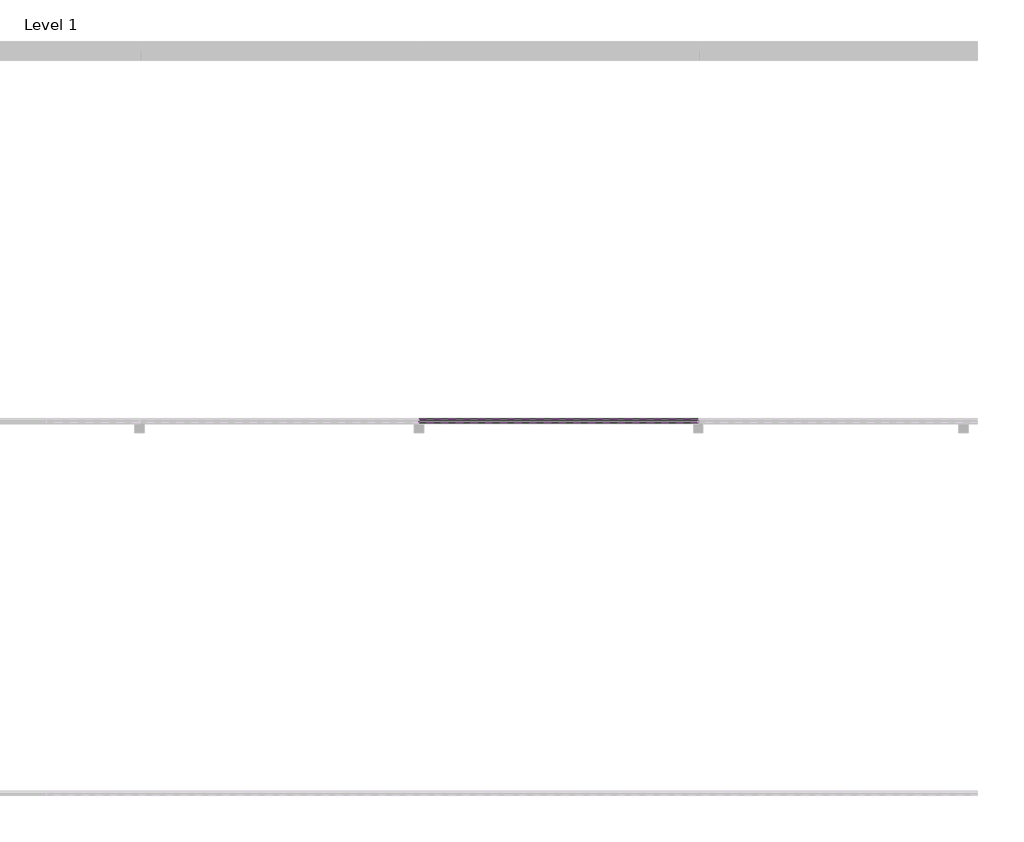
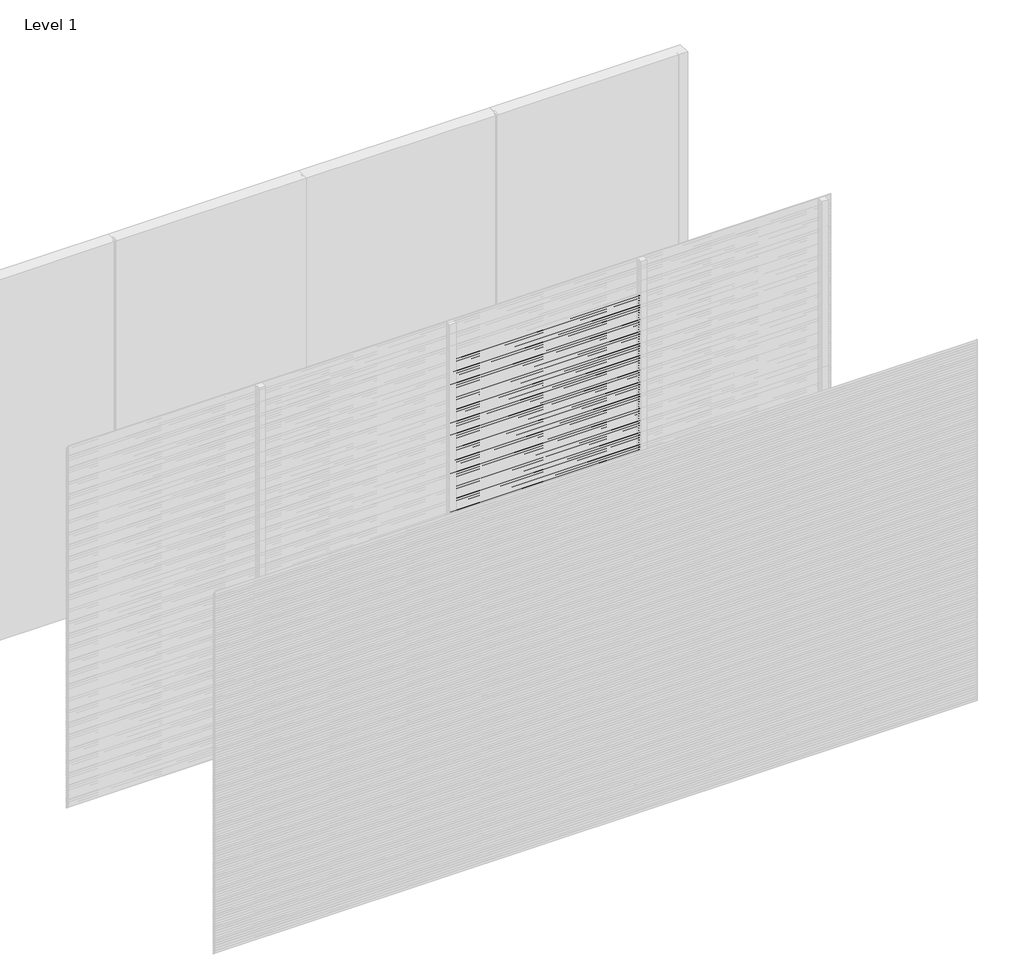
# One storey, part 14 of 31: 98 proxies.
"""IFC4 building model written with IfcOpenShell, lengths in millimetres."""

from ifc_helpers import new_model, si_unit, frame, origin, place, context, project, spatial, polyline, outline, extrude, element, save

model = new_model("IFC4")

# Units and contexts
model_context = context("Model", 3, world=origin())
ifc_project = project(units=[si_unit("LENGTHUNIT", "METRE", prefix="MILLI")], contexts=[model_context])

# Site, building, storey
site = spatial("IfcSite", under=ifc_project)
building = spatial("IfcBuilding", under=site)
storey = spatial("IfcBuildingStorey", under=building, Name="Level 1", Elevation=0.0)

# Proxies
placement = place(None, origin())
element("IfcBuildingElementProxy", 1, Name="Wall Sweeps", at=placement, inside=storey, context=model_context, shape_type="SweptSolid", body=[
    extrude(outline(polyline([(-11995.0, 2700.0), (-11995.0, 2688.942893), (-11976.0, 2673.0), (-11976.0, 2660.0), (-11997.0, 2677.6210923), (-11997.0, 2700.0), (-11995.0, 2700.0)])), frame((3000.0, 0.0, 0.0), z_axis=(1.0, 0.0, 0.0), x_axis=(0.0, 1.0, 0.0)), (0.0, 0.0, 1.0), 1500.0),
])
element("IfcBuildingElementProxy", 2, Name="Wall Sweeps", at=placement, inside=storey, context=model_context, shape_type="SweptSolid", body=[
    extrude(outline(polyline([(-11995.0, 2680.0), (-11995.0, 2668.942893), (-11976.0, 2653.0), (-11976.0, 2640.0), (-11997.0, 2657.6210923), (-11997.0, 2680.0), (-11995.0, 2680.0)])), frame((3000.0, 0.0, 0.0), z_axis=(1.0, 0.0, 0.0), x_axis=(0.0, 1.0, 0.0)), (0.0, 0.0, 1.0), 1500.0),
])
element("IfcBuildingElementProxy", 3, Name="Wall Sweeps", at=placement, inside=storey, context=model_context, shape_type="SweptSolid", body=[
    extrude(outline(polyline([(-11995.0, 2660.0), (-11995.0, 2648.942893), (-11976.0, 2633.0), (-11976.0, 2620.0), (-11997.0, 2637.6210923), (-11997.0, 2660.0), (-11995.0, 2660.0)])), frame((3000.0, 0.0, 0.0), z_axis=(1.0, 0.0, 0.0), x_axis=(0.0, 1.0, 0.0)), (0.0, 0.0, 1.0), 1500.0),
])
element("IfcBuildingElementProxy", 4, Name="Wall Sweeps", at=placement, inside=storey, context=model_context, shape_type="SweptSolid", body=[
    extrude(outline(polyline([(-11995.0, 2640.0), (-11995.0, 2628.942893), (-11976.0, 2613.0), (-11976.0, 2600.0), (-11997.0, 2617.6210923), (-11997.0, 2640.0), (-11995.0, 2640.0)])), frame((3000.0, 0.0, 0.0), z_axis=(1.0, 0.0, 0.0), x_axis=(0.0, 1.0, 0.0)), (0.0, 0.0, 1.0), 1500.0),
])
element("IfcBuildingElementProxy", 5, Name="Wall Sweeps", at=placement, inside=storey, context=model_context, shape_type="SweptSolid", body=[
    extrude(outline(polyline([(-11995.0, 2620.0), (-11995.0, 2608.942893), (-11976.0, 2593.0), (-11976.0, 2580.0), (-11997.0, 2597.6210923), (-11997.0, 2620.0), (-11995.0, 2620.0)])), frame((3000.0, 0.0, 0.0), z_axis=(1.0, 0.0, 0.0), x_axis=(0.0, 1.0, 0.0)), (0.0, 0.0, 1.0), 1500.0),
])
element("IfcBuildingElementProxy", 6, Name="Wall Sweeps", at=placement, inside=storey, context=model_context, shape_type="SweptSolid", body=[
    extrude(outline(polyline([(-11995.0, 2600.0), (-11995.0, 2588.942893), (-11976.0, 2573.0), (-11976.0, 2560.0), (-11997.0, 2577.6210923), (-11997.0, 2600.0), (-11995.0, 2600.0)])), frame((3000.0, 0.0, 0.0), z_axis=(1.0, 0.0, 0.0), x_axis=(0.0, 1.0, 0.0)), (0.0, 0.0, 1.0), 1500.0),
])
element("IfcBuildingElementProxy", 7, Name="Wall Sweeps", at=placement, inside=storey, context=model_context, shape_type="SweptSolid", body=[
    extrude(outline(polyline([(-11995.0, 2580.0), (-11995.0, 2568.942893), (-11976.0, 2553.0), (-11976.0, 2540.0), (-11997.0, 2557.6210923), (-11997.0, 2580.0), (-11995.0, 2580.0)])), frame((3000.0, 0.0, 0.0), z_axis=(1.0, 0.0, 0.0), x_axis=(0.0, 1.0, 0.0)), (0.0, 0.0, 1.0), 1500.0),
])
element("IfcBuildingElementProxy", 8, Name="Wall Sweeps", at=placement, inside=storey, context=model_context, shape_type="SweptSolid", body=[
    extrude(outline(polyline([(-11995.0, 2560.0), (-11995.0, 2548.942893), (-11976.0, 2533.0), (-11976.0, 2520.0), (-11997.0, 2537.6210923), (-11997.0, 2560.0), (-11995.0, 2560.0)])), frame((3000.0, 0.0, 0.0), z_axis=(1.0, 0.0, 0.0), x_axis=(0.0, 1.0, 0.0)), (0.0, 0.0, 1.0), 1500.0),
])
element("IfcBuildingElementProxy", 9, Name="Wall Sweeps", at=placement, inside=storey, context=model_context, shape_type="SweptSolid", body=[
    extrude(outline(polyline([(-11995.0, 2540.0), (-11995.0, 2528.942893), (-11976.0, 2513.0), (-11976.0, 2500.0), (-11997.0, 2517.6210923), (-11997.0, 2540.0), (-11995.0, 2540.0)])), frame((3000.0, 0.0, 0.0), z_axis=(1.0, 0.0, 0.0), x_axis=(0.0, 1.0, 0.0)), (0.0, 0.0, 1.0), 1500.0),
])
element("IfcBuildingElementProxy", 10, Name="Wall Sweeps", at=placement, inside=storey, context=model_context, shape_type="SweptSolid", body=[
    extrude(outline(polyline([(-11995.0, 2520.0), (-11995.0, 2508.942893), (-11976.0, 2493.0), (-11976.0, 2480.0), (-11997.0, 2497.6210923), (-11997.0, 2520.0), (-11995.0, 2520.0)])), frame((3000.0, 0.0, 0.0), z_axis=(1.0, 0.0, 0.0), x_axis=(0.0, 1.0, 0.0)), (0.0, 0.0, 1.0), 1500.0),
])
element("IfcBuildingElementProxy", 11, Name="Wall Sweeps", at=placement, inside=storey, context=model_context, shape_type="SweptSolid", body=[
    extrude(outline(polyline([(-11995.0, 2500.0), (-11995.0, 2488.942893), (-11976.0, 2473.0), (-11976.0, 2460.0), (-11997.0, 2477.6210923), (-11997.0, 2500.0), (-11995.0, 2500.0)])), frame((3000.0, 0.0, 0.0), z_axis=(1.0, 0.0, 0.0), x_axis=(0.0, 1.0, 0.0)), (0.0, 0.0, 1.0), 1500.0),
])
element("IfcBuildingElementProxy", 12, Name="Wall Sweeps", at=placement, inside=storey, context=model_context, shape_type="SweptSolid", body=[
    extrude(outline(polyline([(-11995.0, 2480.0), (-11995.0, 2468.942893), (-11976.0, 2453.0), (-11976.0, 2440.0), (-11997.0, 2457.6210923), (-11997.0, 2480.0), (-11995.0, 2480.0)])), frame((3000.0, 0.0, 0.0), z_axis=(1.0, 0.0, 0.0), x_axis=(0.0, 1.0, 0.0)), (0.0, 0.0, 1.0), 1500.0),
])
element("IfcBuildingElementProxy", 13, Name="Wall Sweeps", at=placement, inside=storey, context=model_context, shape_type="SweptSolid", body=[
    extrude(outline(polyline([(-11995.0, 2460.0), (-11995.0, 2448.942893), (-11976.0, 2433.0), (-11976.0, 2420.0), (-11997.0, 2437.6210923), (-11997.0, 2460.0), (-11995.0, 2460.0)])), frame((3000.0, 0.0, 0.0), z_axis=(1.0, 0.0, 0.0), x_axis=(0.0, 1.0, 0.0)), (0.0, 0.0, 1.0), 1500.0),
])
element("IfcBuildingElementProxy", 14, Name="Wall Sweeps", at=placement, inside=storey, context=model_context, shape_type="SweptSolid", body=[
    extrude(outline(polyline([(-11995.0, 2440.0), (-11995.0, 2428.942893), (-11976.0, 2413.0), (-11976.0, 2400.0), (-11997.0, 2417.6210923), (-11997.0, 2440.0), (-11995.0, 2440.0)])), frame((3000.0, 0.0, 0.0), z_axis=(1.0, 0.0, 0.0), x_axis=(0.0, 1.0, 0.0)), (0.0, 0.0, 1.0), 1500.0),
])
element("IfcBuildingElementProxy", 15, Name="Wall Sweeps", at=placement, inside=storey, context=model_context, shape_type="SweptSolid", body=[
    extrude(outline(polyline([(-11995.0, 2420.0), (-11995.0, 2408.942893), (-11976.0, 2393.0), (-11976.0, 2380.0), (-11997.0, 2397.6210923), (-11997.0, 2420.0), (-11995.0, 2420.0)])), frame((3000.0, 0.0, 0.0), z_axis=(1.0, 0.0, 0.0), x_axis=(0.0, 1.0, 0.0)), (0.0, 0.0, 1.0), 1500.0),
])
element("IfcBuildingElementProxy", 16, Name="Wall Sweeps", at=placement, inside=storey, context=model_context, shape_type="SweptSolid", body=[
    extrude(outline(polyline([(-11995.0, 2400.0), (-11995.0, 2388.942893), (-11976.0, 2373.0), (-11976.0, 2360.0), (-11997.0, 2377.6210923), (-11997.0, 2400.0), (-11995.0, 2400.0)])), frame((3000.0, 0.0, 0.0), z_axis=(1.0, 0.0, 0.0), x_axis=(0.0, 1.0, 0.0)), (0.0, 0.0, 1.0), 1500.0),
])
element("IfcBuildingElementProxy", 17, Name="Wall Sweeps", at=placement, inside=storey, context=model_context, shape_type="SweptSolid", body=[
    extrude(outline(polyline([(-11995.0, 2380.0), (-11995.0, 2368.942893), (-11976.0, 2353.0), (-11976.0, 2340.0), (-11997.0, 2357.6210923), (-11997.0, 2380.0), (-11995.0, 2380.0)])), frame((3000.0, 0.0, 0.0), z_axis=(1.0, 0.0, 0.0), x_axis=(0.0, 1.0, 0.0)), (0.0, 0.0, 1.0), 1500.0),
])
element("IfcBuildingElementProxy", 18, Name="Wall Sweeps", at=placement, inside=storey, context=model_context, shape_type="SweptSolid", body=[
    extrude(outline(polyline([(-11995.0, 2360.0), (-11995.0, 2348.942893), (-11976.0, 2333.0), (-11976.0, 2320.0), (-11997.0, 2337.6210923), (-11997.0, 2360.0), (-11995.0, 2360.0)])), frame((3000.0, 0.0, 0.0), z_axis=(1.0, 0.0, 0.0), x_axis=(0.0, 1.0, 0.0)), (0.0, 0.0, 1.0), 1500.0),
])
element("IfcBuildingElementProxy", 19, Name="Wall Sweeps", at=placement, inside=storey, context=model_context, shape_type="SweptSolid", body=[
    extrude(outline(polyline([(-11995.0, 2340.0), (-11995.0, 2328.942893), (-11976.0, 2313.0), (-11976.0, 2300.0), (-11997.0, 2317.6210923), (-11997.0, 2340.0), (-11995.0, 2340.0)])), frame((3000.0, 0.0, 0.0), z_axis=(1.0, 0.0, 0.0), x_axis=(0.0, 1.0, 0.0)), (0.0, 0.0, 1.0), 1500.0),
])
element("IfcBuildingElementProxy", 20, Name="Wall Sweeps", at=placement, inside=storey, context=model_context, shape_type="SweptSolid", body=[
    extrude(outline(polyline([(-11995.0, 2320.0), (-11995.0, 2308.942893), (-11976.0, 2293.0), (-11976.0, 2280.0), (-11997.0, 2297.6210923), (-11997.0, 2320.0), (-11995.0, 2320.0)])), frame((3000.0, 0.0, 0.0), z_axis=(1.0, 0.0, 0.0), x_axis=(0.0, 1.0, 0.0)), (0.0, 0.0, 1.0), 1500.0),
])
element("IfcBuildingElementProxy", 21, Name="Wall Sweeps", at=placement, inside=storey, context=model_context, shape_type="SweptSolid", body=[
    extrude(outline(polyline([(-11995.0, 2300.0), (-11995.0, 2288.942893), (-11976.0, 2273.0), (-11976.0, 2260.0), (-11997.0, 2277.6210923), (-11997.0, 2300.0), (-11995.0, 2300.0)])), frame((3000.0, 0.0, 0.0), z_axis=(1.0, 0.0, 0.0), x_axis=(0.0, 1.0, 0.0)), (0.0, 0.0, 1.0), 1500.0),
])
element("IfcBuildingElementProxy", 22, Name="Wall Sweeps", at=placement, inside=storey, context=model_context, shape_type="SweptSolid", body=[
    extrude(outline(polyline([(-11995.0, 2280.0), (-11995.0, 2268.942893), (-11976.0, 2253.0), (-11976.0, 2240.0), (-11997.0, 2257.6210923), (-11997.0, 2280.0), (-11995.0, 2280.0)])), frame((3000.0, 0.0, 0.0), z_axis=(1.0, 0.0, 0.0), x_axis=(0.0, 1.0, 0.0)), (0.0, 0.0, 1.0), 1500.0),
])
element("IfcBuildingElementProxy", 23, Name="Wall Sweeps", at=placement, inside=storey, context=model_context, shape_type="SweptSolid", body=[
    extrude(outline(polyline([(-11995.0, 2260.0), (-11995.0, 2248.942893), (-11976.0, 2233.0), (-11976.0, 2220.0), (-11997.0, 2237.6210923), (-11997.0, 2260.0), (-11995.0, 2260.0)])), frame((3000.0, 0.0, 0.0), z_axis=(1.0, 0.0, 0.0), x_axis=(0.0, 1.0, 0.0)), (0.0, 0.0, 1.0), 1500.0),
])
element("IfcBuildingElementProxy", 24, Name="Wall Sweeps", at=placement, inside=storey, context=model_context, shape_type="SweptSolid", body=[
    extrude(outline(polyline([(-11995.0, 2240.0), (-11995.0, 2228.942893), (-11976.0, 2213.0), (-11976.0, 2200.0), (-11997.0, 2217.6210923), (-11997.0, 2240.0), (-11995.0, 2240.0)])), frame((3000.0, 0.0, 0.0), z_axis=(1.0, 0.0, 0.0), x_axis=(0.0, 1.0, 0.0)), (0.0, 0.0, 1.0), 1500.0),
])
element("IfcBuildingElementProxy", 25, Name="Wall Sweeps", at=placement, inside=storey, context=model_context, shape_type="SweptSolid", body=[
    extrude(outline(polyline([(-11995.0, 2220.0), (-11995.0, 2208.942893), (-11976.0, 2193.0), (-11976.0, 2180.0), (-11997.0, 2197.6210923), (-11997.0, 2220.0), (-11995.0, 2220.0)])), frame((3000.0, 0.0, 0.0), z_axis=(1.0, 0.0, 0.0), x_axis=(0.0, 1.0, 0.0)), (0.0, 0.0, 1.0), 1500.0),
])
element("IfcBuildingElementProxy", 26, Name="Wall Sweeps", at=placement, inside=storey, context=model_context, shape_type="SweptSolid", body=[
    extrude(outline(polyline([(-11995.0, 2200.0), (-11995.0, 2188.942893), (-11976.0, 2173.0), (-11976.0, 2160.0), (-11997.0, 2177.6210923), (-11997.0, 2200.0), (-11995.0, 2200.0)])), frame((3000.0, 0.0, 0.0), z_axis=(1.0, 0.0, 0.0), x_axis=(0.0, 1.0, 0.0)), (0.0, 0.0, 1.0), 1500.0),
])
element("IfcBuildingElementProxy", 27, Name="Wall Sweeps", at=placement, inside=storey, context=model_context, shape_type="SweptSolid", body=[
    extrude(outline(polyline([(-11995.0, 2180.0), (-11995.0, 2168.942893), (-11976.0, 2153.0), (-11976.0, 2140.0), (-11997.0, 2157.6210923), (-11997.0, 2180.0), (-11995.0, 2180.0)])), frame((3000.0, 0.0, 0.0), z_axis=(1.0, 0.0, 0.0), x_axis=(0.0, 1.0, 0.0)), (0.0, 0.0, 1.0), 1500.0),
])
element("IfcBuildingElementProxy", 28, Name="Wall Sweeps", at=placement, inside=storey, context=model_context, shape_type="SweptSolid", body=[
    extrude(outline(polyline([(-11995.0, 2160.0), (-11995.0, 2148.942893), (-11976.0, 2133.0), (-11976.0, 2120.0), (-11997.0, 2137.6210923), (-11997.0, 2160.0), (-11995.0, 2160.0)])), frame((3000.0, 0.0, 0.0), z_axis=(1.0, 0.0, 0.0), x_axis=(0.0, 1.0, 0.0)), (0.0, 0.0, 1.0), 1500.0),
])
element("IfcBuildingElementProxy", 29, Name="Wall Sweeps", at=placement, inside=storey, context=model_context, shape_type="SweptSolid", body=[
    extrude(outline(polyline([(-11995.0, 2140.0), (-11995.0, 2128.942893), (-11976.0, 2113.0), (-11976.0, 2100.0), (-11997.0, 2117.6210923), (-11997.0, 2140.0), (-11995.0, 2140.0)])), frame((3000.0, 0.0, 0.0), z_axis=(1.0, 0.0, 0.0), x_axis=(0.0, 1.0, 0.0)), (0.0, 0.0, 1.0), 1500.0),
])
element("IfcBuildingElementProxy", 30, Name="Wall Sweeps", at=placement, inside=storey, context=model_context, shape_type="SweptSolid", body=[
    extrude(outline(polyline([(-11995.0, 2120.0), (-11995.0, 2108.942893), (-11976.0, 2093.0), (-11976.0, 2080.0), (-11997.0, 2097.6210923), (-11997.0, 2120.0), (-11995.0, 2120.0)])), frame((3000.0, 0.0, 0.0), z_axis=(1.0, 0.0, 0.0), x_axis=(0.0, 1.0, 0.0)), (0.0, 0.0, 1.0), 1500.0),
])
element("IfcBuildingElementProxy", 31, Name="Wall Sweeps", at=placement, inside=storey, context=model_context, shape_type="SweptSolid", body=[
    extrude(outline(polyline([(-11995.0, 2100.0), (-11995.0, 2088.942893), (-11976.0, 2073.0), (-11976.0, 2060.0), (-11997.0, 2077.6210923), (-11997.0, 2100.0), (-11995.0, 2100.0)])), frame((3000.0, 0.0, 0.0), z_axis=(1.0, 0.0, 0.0), x_axis=(0.0, 1.0, 0.0)), (0.0, 0.0, 1.0), 1500.0),
])
element("IfcBuildingElementProxy", 32, Name="Wall Sweeps", at=placement, inside=storey, context=model_context, shape_type="SweptSolid", body=[
    extrude(outline(polyline([(-11995.0, 2080.0), (-11995.0, 2068.942893), (-11976.0, 2053.0), (-11976.0, 2040.0), (-11997.0, 2057.6210923), (-11997.0, 2080.0), (-11995.0, 2080.0)])), frame((3000.0, 0.0, 0.0), z_axis=(1.0, 0.0, 0.0), x_axis=(0.0, 1.0, 0.0)), (0.0, 0.0, 1.0), 1500.0),
])
element("IfcBuildingElementProxy", 33, Name="Wall Sweeps", at=placement, inside=storey, context=model_context, shape_type="SweptSolid", body=[
    extrude(outline(polyline([(-11995.0, 2060.0), (-11995.0, 2048.942893), (-11976.0, 2033.0), (-11976.0, 2020.0), (-11997.0, 2037.6210923), (-11997.0, 2060.0), (-11995.0, 2060.0)])), frame((3000.0, 0.0, 0.0), z_axis=(1.0, 0.0, 0.0), x_axis=(0.0, 1.0, 0.0)), (0.0, 0.0, 1.0), 1500.0),
])
element("IfcBuildingElementProxy", 34, Name="Wall Sweeps", at=placement, inside=storey, context=model_context, shape_type="SweptSolid", body=[
    extrude(outline(polyline([(-11995.0, 2040.0), (-11995.0, 2028.942893), (-11976.0, 2013.0), (-11976.0, 2000.0), (-11997.0, 2017.6210923), (-11997.0, 2040.0), (-11995.0, 2040.0)])), frame((3000.0, 0.0, 0.0), z_axis=(1.0, 0.0, 0.0), x_axis=(0.0, 1.0, 0.0)), (0.0, 0.0, 1.0), 1500.0),
])
element("IfcBuildingElementProxy", 35, Name="Wall Sweeps", at=placement, inside=storey, context=model_context, shape_type="SweptSolid", body=[
    extrude(outline(polyline([(-11995.0, 2020.0), (-11995.0, 2008.942893), (-11976.0, 1993.0), (-11976.0, 1980.0), (-11997.0, 1997.6210923), (-11997.0, 2020.0), (-11995.0, 2020.0)])), frame((3000.0, 0.0, 0.0), z_axis=(1.0, 0.0, 0.0), x_axis=(0.0, 1.0, 0.0)), (0.0, 0.0, 1.0), 1500.0),
])
element("IfcBuildingElementProxy", 36, Name="Wall Sweeps", at=placement, inside=storey, context=model_context, shape_type="SweptSolid", body=[
    extrude(outline(polyline([(-11995.0, 2000.0), (-11995.0, 1988.942893), (-11976.0, 1973.0), (-11976.0, 1960.0), (-11997.0, 1977.6210923), (-11997.0, 2000.0), (-11995.0, 2000.0)])), frame((3000.0, 0.0, 0.0), z_axis=(1.0, 0.0, 0.0), x_axis=(0.0, 1.0, 0.0)), (0.0, 0.0, 1.0), 1500.0),
])
element("IfcBuildingElementProxy", 37, Name="Wall Sweeps", at=placement, inside=storey, context=model_context, shape_type="SweptSolid", body=[
    extrude(outline(polyline([(-11995.0, 1980.0), (-11995.0, 1968.942893), (-11976.0, 1953.0), (-11976.0, 1940.0), (-11997.0, 1957.6210923), (-11997.0, 1980.0), (-11995.0, 1980.0)])), frame((3000.0, 0.0, 0.0), z_axis=(1.0, 0.0, 0.0), x_axis=(0.0, 1.0, 0.0)), (0.0, 0.0, 1.0), 1500.0),
])
element("IfcBuildingElementProxy", 38, Name="Wall Sweeps", at=placement, inside=storey, context=model_context, shape_type="SweptSolid", body=[
    extrude(outline(polyline([(-11995.0, 1960.0), (-11995.0, 1948.942893), (-11976.0, 1933.0), (-11976.0, 1920.0), (-11997.0, 1937.6210923), (-11997.0, 1960.0), (-11995.0, 1960.0)])), frame((3000.0, 0.0, 0.0), z_axis=(1.0, 0.0, 0.0), x_axis=(0.0, 1.0, 0.0)), (0.0, 0.0, 1.0), 1500.0),
])
element("IfcBuildingElementProxy", 39, Name="Wall Sweeps", at=placement, inside=storey, context=model_context, shape_type="SweptSolid", body=[
    extrude(outline(polyline([(-11995.0, 1940.0), (-11995.0, 1928.942893), (-11976.0, 1913.0), (-11976.0, 1900.0), (-11997.0, 1917.6210923), (-11997.0, 1940.0), (-11995.0, 1940.0)])), frame((3000.0, 0.0, 0.0), z_axis=(1.0, 0.0, 0.0), x_axis=(0.0, 1.0, 0.0)), (0.0, 0.0, 1.0), 1500.0),
])
element("IfcBuildingElementProxy", 40, Name="Wall Sweeps", at=placement, inside=storey, context=model_context, shape_type="SweptSolid", body=[
    extrude(outline(polyline([(-11995.0, 1920.0), (-11995.0, 1908.942893), (-11976.0, 1893.0), (-11976.0, 1880.0), (-11997.0, 1897.6210923), (-11997.0, 1920.0), (-11995.0, 1920.0)])), frame((3000.0, 0.0, 0.0), z_axis=(1.0, 0.0, 0.0), x_axis=(0.0, 1.0, 0.0)), (0.0, 0.0, 1.0), 1500.0),
])
element("IfcBuildingElementProxy", 41, Name="Wall Sweeps", at=placement, inside=storey, context=model_context, shape_type="SweptSolid", body=[
    extrude(outline(polyline([(-11995.0, 1900.0), (-11995.0, 1888.942893), (-11976.0, 1873.0), (-11976.0, 1860.0), (-11997.0, 1877.6210923), (-11997.0, 1900.0), (-11995.0, 1900.0)])), frame((3000.0, 0.0, 0.0), z_axis=(1.0, 0.0, 0.0), x_axis=(0.0, 1.0, 0.0)), (0.0, 0.0, 1.0), 1500.0),
])
element("IfcBuildingElementProxy", 42, Name="Wall Sweeps", at=placement, inside=storey, context=model_context, shape_type="SweptSolid", body=[
    extrude(outline(polyline([(-11995.0, 1880.0), (-11995.0, 1868.942893), (-11976.0, 1853.0), (-11976.0, 1840.0), (-11997.0, 1857.6210923), (-11997.0, 1880.0), (-11995.0, 1880.0)])), frame((3000.0, 0.0, 0.0), z_axis=(1.0, 0.0, 0.0), x_axis=(0.0, 1.0, 0.0)), (0.0, 0.0, 1.0), 1500.0),
])
element("IfcBuildingElementProxy", 43, Name="Wall Sweeps", at=placement, inside=storey, context=model_context, shape_type="SweptSolid", body=[
    extrude(outline(polyline([(-11995.0, 1860.0), (-11995.0, 1848.942893), (-11976.0, 1833.0), (-11976.0, 1820.0), (-11997.0, 1837.6210923), (-11997.0, 1860.0), (-11995.0, 1860.0)])), frame((3000.0, 0.0, 0.0), z_axis=(1.0, 0.0, 0.0), x_axis=(0.0, 1.0, 0.0)), (0.0, 0.0, 1.0), 1500.0),
])
element("IfcBuildingElementProxy", 44, Name="Wall Sweeps", at=placement, inside=storey, context=model_context, shape_type="SweptSolid", body=[
    extrude(outline(polyline([(-11995.0, 1840.0), (-11995.0, 1828.942893), (-11976.0, 1813.0), (-11976.0, 1800.0), (-11997.0, 1817.6210923), (-11997.0, 1840.0), (-11995.0, 1840.0)])), frame((3000.0, 0.0, 0.0), z_axis=(1.0, 0.0, 0.0), x_axis=(0.0, 1.0, 0.0)), (0.0, 0.0, 1.0), 1500.0),
])
element("IfcBuildingElementProxy", 45, Name="Wall Sweeps", at=placement, inside=storey, context=model_context, shape_type="SweptSolid", body=[
    extrude(outline(polyline([(-11995.0, 1820.0), (-11995.0, 1808.942893), (-11976.0, 1793.0), (-11976.0, 1780.0), (-11997.0, 1797.6210923), (-11997.0, 1820.0), (-11995.0, 1820.0)])), frame((3000.0, 0.0, 0.0), z_axis=(1.0, 0.0, 0.0), x_axis=(0.0, 1.0, 0.0)), (0.0, 0.0, 1.0), 1500.0),
])
element("IfcBuildingElementProxy", 46, Name="Wall Sweeps", at=placement, inside=storey, context=model_context, shape_type="SweptSolid", body=[
    extrude(outline(polyline([(-11995.0, 1800.0), (-11995.0, 1788.942893), (-11976.0, 1773.0), (-11976.0, 1760.0), (-11997.0, 1777.6210923), (-11997.0, 1800.0), (-11995.0, 1800.0)])), frame((3000.0, 0.0, 0.0), z_axis=(1.0, 0.0, 0.0), x_axis=(0.0, 1.0, 0.0)), (0.0, 0.0, 1.0), 1500.0),
])
element("IfcBuildingElementProxy", 47, Name="Wall Sweeps", at=placement, inside=storey, context=model_context, shape_type="SweptSolid", body=[
    extrude(outline(polyline([(-11995.0, 1780.0), (-11995.0, 1768.942893), (-11976.0, 1753.0), (-11976.0, 1740.0), (-11997.0, 1757.6210923), (-11997.0, 1780.0), (-11995.0, 1780.0)])), frame((3000.0, 0.0, 0.0), z_axis=(1.0, 0.0, 0.0), x_axis=(0.0, 1.0, 0.0)), (0.0, 0.0, 1.0), 1500.0),
])
element("IfcBuildingElementProxy", 48, Name="Wall Sweeps", at=placement, inside=storey, context=model_context, shape_type="SweptSolid", body=[
    extrude(outline(polyline([(-11995.0, 1760.0), (-11995.0, 1748.942893), (-11976.0, 1733.0), (-11976.0, 1720.0), (-11997.0, 1737.6210923), (-11997.0, 1760.0), (-11995.0, 1760.0)])), frame((3000.0, 0.0, 0.0), z_axis=(1.0, 0.0, 0.0), x_axis=(0.0, 1.0, 0.0)), (0.0, 0.0, 1.0), 1500.0),
])
element("IfcBuildingElementProxy", 49, Name="Wall Sweeps", at=placement, inside=storey, context=model_context, shape_type="SweptSolid", body=[
    extrude(outline(polyline([(-11995.0, 1740.0), (-11995.0, 1728.942893), (-11976.0, 1713.0), (-11976.0, 1700.0), (-11997.0, 1717.6210923), (-11997.0, 1740.0), (-11995.0, 1740.0)])), frame((3000.0, 0.0, 0.0), z_axis=(1.0, 0.0, 0.0), x_axis=(0.0, 1.0, 0.0)), (0.0, 0.0, 1.0), 1500.0),
])
element("IfcBuildingElementProxy", 50, Name="Wall Sweeps", at=placement, inside=storey, context=model_context, shape_type="SweptSolid", body=[
    extrude(outline(polyline([(-11995.0, 1720.0), (-11995.0, 1708.942893), (-11976.0, 1693.0), (-11976.0, 1680.0), (-11997.0, 1697.6210923), (-11997.0, 1720.0), (-11995.0, 1720.0)])), frame((3000.0, 0.0, 0.0), z_axis=(1.0, 0.0, 0.0), x_axis=(0.0, 1.0, 0.0)), (0.0, 0.0, 1.0), 1500.0),
])
element("IfcBuildingElementProxy", 51, Name="Wall Sweeps", at=placement, inside=storey, context=model_context, shape_type="SweptSolid", body=[
    extrude(outline(polyline([(-11995.0, 1700.0), (-11995.0, 1688.942893), (-11976.0, 1673.0), (-11976.0, 1660.0), (-11997.0, 1677.6210923), (-11997.0, 1700.0), (-11995.0, 1700.0)])), frame((3000.0, 0.0, 0.0), z_axis=(1.0, 0.0, 0.0), x_axis=(0.0, 1.0, 0.0)), (0.0, 0.0, 1.0), 1500.0),
])
element("IfcBuildingElementProxy", 52, Name="Wall Sweeps", at=placement, inside=storey, context=model_context, shape_type="SweptSolid", body=[
    extrude(outline(polyline([(-11995.0, 1680.0), (-11995.0, 1668.942893), (-11976.0, 1653.0), (-11976.0, 1640.0), (-11997.0, 1657.6210923), (-11997.0, 1680.0), (-11995.0, 1680.0)])), frame((3000.0, 0.0, 0.0), z_axis=(1.0, 0.0, 0.0), x_axis=(0.0, 1.0, 0.0)), (0.0, 0.0, 1.0), 1500.0),
])
element("IfcBuildingElementProxy", 53, Name="Wall Sweeps", at=placement, inside=storey, context=model_context, shape_type="SweptSolid", body=[
    extrude(outline(polyline([(-11995.0, 1660.0), (-11995.0, 1648.942893), (-11976.0, 1633.0), (-11976.0, 1620.0), (-11997.0, 1637.6210923), (-11997.0, 1660.0), (-11995.0, 1660.0)])), frame((3000.0, 0.0, 0.0), z_axis=(1.0, 0.0, 0.0), x_axis=(0.0, 1.0, 0.0)), (0.0, 0.0, 1.0), 1500.0),
])
element("IfcBuildingElementProxy", 54, Name="Wall Sweeps", at=placement, inside=storey, context=model_context, shape_type="SweptSolid", body=[
    extrude(outline(polyline([(-11995.0, 1640.0), (-11995.0, 1628.942893), (-11976.0, 1613.0), (-11976.0, 1600.0), (-11997.0, 1617.6210923), (-11997.0, 1640.0), (-11995.0, 1640.0)])), frame((3000.0, 0.0, 0.0), z_axis=(1.0, 0.0, 0.0), x_axis=(0.0, 1.0, 0.0)), (0.0, 0.0, 1.0), 1500.0),
])
element("IfcBuildingElementProxy", 55, Name="Wall Sweeps", at=placement, inside=storey, context=model_context, shape_type="SweptSolid", body=[
    extrude(outline(polyline([(-11995.0, 1620.0), (-11995.0, 1608.942893), (-11976.0, 1593.0), (-11976.0, 1580.0), (-11997.0, 1597.6210923), (-11997.0, 1620.0), (-11995.0, 1620.0)])), frame((3000.0, 0.0, 0.0), z_axis=(1.0, 0.0, 0.0), x_axis=(0.0, 1.0, 0.0)), (0.0, 0.0, 1.0), 1500.0),
])
element("IfcBuildingElementProxy", 56, Name="Wall Sweeps", at=placement, inside=storey, context=model_context, shape_type="SweptSolid", body=[
    extrude(outline(polyline([(-11995.0, 1600.0), (-11995.0, 1588.942893), (-11976.0, 1573.0), (-11976.0, 1560.0), (-11997.0, 1577.6210923), (-11997.0, 1600.0), (-11995.0, 1600.0)])), frame((3000.0, 0.0, 0.0), z_axis=(1.0, 0.0, 0.0), x_axis=(0.0, 1.0, 0.0)), (0.0, 0.0, 1.0), 1500.0),
])
element("IfcBuildingElementProxy", 57, Name="Wall Sweeps", at=placement, inside=storey, context=model_context, shape_type="SweptSolid", body=[
    extrude(outline(polyline([(-11995.0, 1580.0), (-11995.0, 1568.942893), (-11976.0, 1553.0), (-11976.0, 1540.0), (-11997.0, 1557.6210923), (-11997.0, 1580.0), (-11995.0, 1580.0)])), frame((3000.0, 0.0, 0.0), z_axis=(1.0, 0.0, 0.0), x_axis=(0.0, 1.0, 0.0)), (0.0, 0.0, 1.0), 1500.0),
])
element("IfcBuildingElementProxy", 58, Name="Wall Sweeps", at=placement, inside=storey, context=model_context, shape_type="SweptSolid", body=[
    extrude(outline(polyline([(-11995.0, 1560.0), (-11995.0, 1548.942893), (-11976.0, 1533.0), (-11976.0, 1520.0), (-11997.0, 1537.6210923), (-11997.0, 1560.0), (-11995.0, 1560.0)])), frame((3000.0, 0.0, 0.0), z_axis=(1.0, 0.0, 0.0), x_axis=(0.0, 1.0, 0.0)), (0.0, 0.0, 1.0), 1500.0),
])
element("IfcBuildingElementProxy", 59, Name="Wall Sweeps", at=placement, inside=storey, context=model_context, shape_type="SweptSolid", body=[
    extrude(outline(polyline([(-11995.0, 1540.0), (-11995.0, 1528.942893), (-11976.0, 1513.0), (-11976.0, 1500.0), (-11997.0, 1517.6210923), (-11997.0, 1540.0), (-11995.0, 1540.0)])), frame((3000.0, 0.0, 0.0), z_axis=(1.0, 0.0, 0.0), x_axis=(0.0, 1.0, 0.0)), (0.0, 0.0, 1.0), 1500.0),
])
element("IfcBuildingElementProxy", 60, Name="Wall Sweeps", at=placement, inside=storey, context=model_context, shape_type="SweptSolid", body=[
    extrude(outline(polyline([(-11995.0, 1520.0), (-11995.0, 1508.942893), (-11976.0, 1493.0), (-11976.0, 1480.0), (-11997.0, 1497.6210923), (-11997.0, 1520.0), (-11995.0, 1520.0)])), frame((3000.0, 0.0, 0.0), z_axis=(1.0, 0.0, 0.0), x_axis=(0.0, 1.0, 0.0)), (0.0, 0.0, 1.0), 1500.0),
])
element("IfcBuildingElementProxy", 61, Name="Wall Sweeps", at=placement, inside=storey, context=model_context, shape_type="SweptSolid", body=[
    extrude(outline(polyline([(-11995.0, 1500.0), (-11995.0, 1488.942893), (-11976.0, 1473.0), (-11976.0, 1460.0), (-11997.0, 1477.6210923), (-11997.0, 1500.0), (-11995.0, 1500.0)])), frame((3000.0, 0.0, 0.0), z_axis=(1.0, 0.0, 0.0), x_axis=(0.0, 1.0, 0.0)), (0.0, 0.0, 1.0), 1500.0),
])
element("IfcBuildingElementProxy", 62, Name="Wall Sweeps", at=placement, inside=storey, context=model_context, shape_type="SweptSolid", body=[
    extrude(outline(polyline([(-11995.0, 1480.0), (-11995.0, 1468.942893), (-11976.0, 1453.0), (-11976.0, 1440.0), (-11997.0, 1457.6210923), (-11997.0, 1480.0), (-11995.0, 1480.0)])), frame((3000.0, 0.0, 0.0), z_axis=(1.0, 0.0, 0.0), x_axis=(0.0, 1.0, 0.0)), (0.0, 0.0, 1.0), 1500.0),
])
element("IfcBuildingElementProxy", 63, Name="Wall Sweeps", at=placement, inside=storey, context=model_context, shape_type="SweptSolid", body=[
    extrude(outline(polyline([(-11995.0, 1460.0), (-11995.0, 1448.942893), (-11976.0, 1433.0), (-11976.0, 1420.0), (-11997.0, 1437.6210923), (-11997.0, 1460.0), (-11995.0, 1460.0)])), frame((3000.0, 0.0, 0.0), z_axis=(1.0, 0.0, 0.0), x_axis=(0.0, 1.0, 0.0)), (0.0, 0.0, 1.0), 1500.0),
])
element("IfcBuildingElementProxy", 64, Name="Wall Sweeps", at=placement, inside=storey, context=model_context, shape_type="SweptSolid", body=[
    extrude(outline(polyline([(-11995.0, 1440.0), (-11995.0, 1428.942893), (-11976.0, 1413.0), (-11976.0, 1400.0), (-11997.0, 1417.6210923), (-11997.0, 1440.0), (-11995.0, 1440.0)])), frame((3000.0, 0.0, 0.0), z_axis=(1.0, 0.0, 0.0), x_axis=(0.0, 1.0, 0.0)), (0.0, 0.0, 1.0), 1500.0),
])
element("IfcBuildingElementProxy", 65, Name="Wall Sweeps", at=placement, inside=storey, context=model_context, shape_type="SweptSolid", body=[
    extrude(outline(polyline([(-11995.0, 1420.0), (-11995.0, 1408.942893), (-11976.0, 1393.0), (-11976.0, 1380.0), (-11997.0, 1397.6210923), (-11997.0, 1420.0), (-11995.0, 1420.0)])), frame((3000.0, 0.0, 0.0), z_axis=(1.0, 0.0, 0.0), x_axis=(0.0, 1.0, 0.0)), (0.0, 0.0, 1.0), 1500.0),
])
element("IfcBuildingElementProxy", 66, Name="Wall Sweeps", at=placement, inside=storey, context=model_context, shape_type="SweptSolid", body=[
    extrude(outline(polyline([(-11995.0, 1400.0), (-11995.0, 1388.942893), (-11976.0, 1373.0), (-11976.0, 1360.0), (-11997.0, 1377.6210923), (-11997.0, 1400.0), (-11995.0, 1400.0)])), frame((3000.0, 0.0, 0.0), z_axis=(1.0, 0.0, 0.0), x_axis=(0.0, 1.0, 0.0)), (0.0, 0.0, 1.0), 1500.0),
])
element("IfcBuildingElementProxy", 67, Name="Wall Sweeps", at=placement, inside=storey, context=model_context, shape_type="SweptSolid", body=[
    extrude(outline(polyline([(-11995.0, 1380.0), (-11995.0, 1368.942893), (-11976.0, 1353.0), (-11976.0, 1340.0), (-11997.0, 1357.6210923), (-11997.0, 1380.0), (-11995.0, 1380.0)])), frame((3000.0, 0.0, 0.0), z_axis=(1.0, 0.0, 0.0), x_axis=(0.0, 1.0, 0.0)), (0.0, 0.0, 1.0), 1500.0),
])
element("IfcBuildingElementProxy", 68, Name="Wall Sweeps", at=placement, inside=storey, context=model_context, shape_type="SweptSolid", body=[
    extrude(outline(polyline([(-11995.0, 1360.0), (-11995.0, 1348.942893), (-11976.0, 1333.0), (-11976.0, 1320.0), (-11997.0, 1337.6210923), (-11997.0, 1360.0), (-11995.0, 1360.0)])), frame((3000.0, 0.0, 0.0), z_axis=(1.0, 0.0, 0.0), x_axis=(0.0, 1.0, 0.0)), (0.0, 0.0, 1.0), 1500.0),
])
element("IfcBuildingElementProxy", 69, Name="Wall Sweeps", at=placement, inside=storey, context=model_context, shape_type="SweptSolid", body=[
    extrude(outline(polyline([(-11995.0, 1340.0), (-11995.0, 1328.942893), (-11976.0, 1313.0), (-11976.0, 1300.0), (-11997.0, 1317.6210923), (-11997.0, 1340.0), (-11995.0, 1340.0)])), frame((3000.0, 0.0, 0.0), z_axis=(1.0, 0.0, 0.0), x_axis=(0.0, 1.0, 0.0)), (0.0, 0.0, 1.0), 1500.0),
])
element("IfcBuildingElementProxy", 70, Name="Wall Sweeps", at=placement, inside=storey, context=model_context, shape_type="SweptSolid", body=[
    extrude(outline(polyline([(-11995.0, 1320.0), (-11995.0, 1308.942893), (-11976.0, 1293.0), (-11976.0, 1280.0), (-11997.0, 1297.6210923), (-11997.0, 1320.0), (-11995.0, 1320.0)])), frame((3000.0, 0.0, 0.0), z_axis=(1.0, 0.0, 0.0), x_axis=(0.0, 1.0, 0.0)), (0.0, 0.0, 1.0), 1500.0),
])
element("IfcBuildingElementProxy", 71, Name="Wall Sweeps", at=placement, inside=storey, context=model_context, shape_type="SweptSolid", body=[
    extrude(outline(polyline([(-11995.0, 1300.0), (-11995.0, 1288.942893), (-11976.0, 1273.0), (-11976.0, 1260.0), (-11997.0, 1277.6210923), (-11997.0, 1300.0), (-11995.0, 1300.0)])), frame((3000.0, 0.0, 0.0), z_axis=(1.0, 0.0, 0.0), x_axis=(0.0, 1.0, 0.0)), (0.0, 0.0, 1.0), 1500.0),
])
element("IfcBuildingElementProxy", 72, Name="Wall Sweeps", at=placement, inside=storey, context=model_context, shape_type="SweptSolid", body=[
    extrude(outline(polyline([(-11995.0, 1280.0), (-11995.0, 1268.942893), (-11976.0, 1253.0), (-11976.0, 1240.0), (-11997.0, 1257.6210923), (-11997.0, 1280.0), (-11995.0, 1280.0)])), frame((3000.0, 0.0, 0.0), z_axis=(1.0, 0.0, 0.0), x_axis=(0.0, 1.0, 0.0)), (0.0, 0.0, 1.0), 1500.0),
])
element("IfcBuildingElementProxy", 73, Name="Wall Sweeps", at=placement, inside=storey, context=model_context, shape_type="SweptSolid", body=[
    extrude(outline(polyline([(-11995.0, 1260.0), (-11995.0, 1248.942893), (-11976.0, 1233.0), (-11976.0, 1220.0), (-11997.0, 1237.6210923), (-11997.0, 1260.0), (-11995.0, 1260.0)])), frame((3000.0, 0.0, 0.0), z_axis=(1.0, 0.0, 0.0), x_axis=(0.0, 1.0, 0.0)), (0.0, 0.0, 1.0), 1500.0),
])
element("IfcBuildingElementProxy", 74, Name="Wall Sweeps", at=placement, inside=storey, context=model_context, shape_type="SweptSolid", body=[
    extrude(outline(polyline([(-11995.0, 1240.0), (-11995.0, 1228.942893), (-11976.0, 1213.0), (-11976.0, 1200.0), (-11997.0, 1217.6210923), (-11997.0, 1240.0), (-11995.0, 1240.0)])), frame((3000.0, 0.0, 0.0), z_axis=(1.0, 0.0, 0.0), x_axis=(0.0, 1.0, 0.0)), (0.0, 0.0, 1.0), 1500.0),
])
element("IfcBuildingElementProxy", 75, Name="Wall Sweeps", at=placement, inside=storey, context=model_context, shape_type="SweptSolid", body=[
    extrude(outline(polyline([(-11995.0, 1220.0), (-11995.0, 1208.942893), (-11976.0, 1193.0), (-11976.0, 1180.0), (-11997.0, 1197.6210923), (-11997.0, 1220.0), (-11995.0, 1220.0)])), frame((3000.0, 0.0, 0.0), z_axis=(1.0, 0.0, 0.0), x_axis=(0.0, 1.0, 0.0)), (0.0, 0.0, 1.0), 1500.0),
])
element("IfcBuildingElementProxy", 76, Name="Wall Sweeps", at=placement, inside=storey, context=model_context, shape_type="SweptSolid", body=[
    extrude(outline(polyline([(-11995.0, 1200.0), (-11995.0, 1188.942893), (-11976.0, 1173.0), (-11976.0, 1160.0), (-11997.0, 1177.6210923), (-11997.0, 1200.0), (-11995.0, 1200.0)])), frame((3000.0, 0.0, 0.0), z_axis=(1.0, 0.0, 0.0), x_axis=(0.0, 1.0, 0.0)), (0.0, 0.0, 1.0), 1500.0),
])
element("IfcBuildingElementProxy", 77, Name="Wall Sweeps", at=placement, inside=storey, context=model_context, shape_type="SweptSolid", body=[
    extrude(outline(polyline([(-11995.0, 1180.0), (-11995.0, 1168.942893), (-11976.0, 1153.0), (-11976.0, 1140.0), (-11997.0, 1157.6210923), (-11997.0, 1180.0), (-11995.0, 1180.0)])), frame((3000.0, 0.0, 0.0), z_axis=(1.0, 0.0, 0.0), x_axis=(0.0, 1.0, 0.0)), (0.0, 0.0, 1.0), 1500.0),
])
element("IfcBuildingElementProxy", 78, Name="Wall Sweeps", at=placement, inside=storey, context=model_context, shape_type="SweptSolid", body=[
    extrude(outline(polyline([(-11995.0, 1160.0), (-11995.0, 1148.942893), (-11976.0, 1133.0), (-11976.0, 1120.0), (-11997.0, 1137.6210923), (-11997.0, 1160.0), (-11995.0, 1160.0)])), frame((3000.0, 0.0, 0.0), z_axis=(1.0, 0.0, 0.0), x_axis=(0.0, 1.0, 0.0)), (0.0, 0.0, 1.0), 1500.0),
])
element("IfcBuildingElementProxy", 79, Name="Wall Sweeps", at=placement, inside=storey, context=model_context, shape_type="SweptSolid", body=[
    extrude(outline(polyline([(-11995.0, 1140.0), (-11995.0, 1128.942893), (-11976.0, 1113.0), (-11976.0, 1100.0), (-11997.0, 1117.6210923), (-11997.0, 1140.0), (-11995.0, 1140.0)])), frame((3000.0, 0.0, 0.0), z_axis=(1.0, 0.0, 0.0), x_axis=(0.0, 1.0, 0.0)), (0.0, 0.0, 1.0), 1500.0),
])
element("IfcBuildingElementProxy", 80, Name="Wall Sweeps", at=placement, inside=storey, context=model_context, shape_type="SweptSolid", body=[
    extrude(outline(polyline([(-11995.0, 1120.0), (-11995.0, 1108.942893), (-11976.0, 1093.0), (-11976.0, 1080.0), (-11997.0, 1097.6210923), (-11997.0, 1120.0), (-11995.0, 1120.0)])), frame((3000.0, 0.0, 0.0), z_axis=(1.0, 0.0, 0.0), x_axis=(0.0, 1.0, 0.0)), (0.0, 0.0, 1.0), 1500.0),
])
element("IfcBuildingElementProxy", 81, Name="Wall Sweeps", at=placement, inside=storey, context=model_context, shape_type="SweptSolid", body=[
    extrude(outline(polyline([(-11995.0, 1100.0), (-11995.0, 1088.942893), (-11976.0, 1073.0), (-11976.0, 1060.0), (-11997.0, 1077.6210923), (-11997.0, 1100.0), (-11995.0, 1100.0)])), frame((3000.0, 0.0, 0.0), z_axis=(1.0, 0.0, 0.0), x_axis=(0.0, 1.0, 0.0)), (0.0, 0.0, 1.0), 1500.0),
])
element("IfcBuildingElementProxy", 82, Name="Wall Sweeps", at=placement, inside=storey, context=model_context, shape_type="SweptSolid", body=[
    extrude(outline(polyline([(-11995.0, 1080.0), (-11995.0, 1068.942893), (-11976.0, 1053.0), (-11976.0, 1040.0), (-11997.0, 1057.6210923), (-11997.0, 1080.0), (-11995.0, 1080.0)])), frame((3000.0, 0.0, 0.0), z_axis=(1.0, 0.0, 0.0), x_axis=(0.0, 1.0, 0.0)), (0.0, 0.0, 1.0), 1500.0),
])
element("IfcBuildingElementProxy", 83, Name="Wall Sweeps", at=placement, inside=storey, context=model_context, shape_type="SweptSolid", body=[
    extrude(outline(polyline([(-11995.0, 1060.0), (-11995.0, 1048.942893), (-11976.0, 1033.0), (-11976.0, 1020.0), (-11997.0, 1037.6210923), (-11997.0, 1060.0), (-11995.0, 1060.0)])), frame((3000.0, 0.0, 0.0), z_axis=(1.0, 0.0, 0.0), x_axis=(0.0, 1.0, 0.0)), (0.0, 0.0, 1.0), 1500.0),
])
element("IfcBuildingElementProxy", 84, Name="Wall Sweeps", at=placement, inside=storey, context=model_context, shape_type="SweptSolid", body=[
    extrude(outline(polyline([(-11995.0, 1040.0), (-11995.0, 1028.942893), (-11976.0, 1013.0), (-11976.0, 1000.0), (-11997.0, 1017.6210923), (-11997.0, 1040.0), (-11995.0, 1040.0)])), frame((3000.0, 0.0, 0.0), z_axis=(1.0, 0.0, 0.0), x_axis=(0.0, 1.0, 0.0)), (0.0, 0.0, 1.0), 1500.0),
])
element("IfcBuildingElementProxy", 85, Name="Wall Sweeps", at=placement, inside=storey, context=model_context, shape_type="SweptSolid", body=[
    extrude(outline(polyline([(-11995.0, 1020.0), (-11995.0, 1008.942893), (-11976.0, 993.0), (-11976.0, 980.0), (-11997.0, 997.6210923), (-11997.0, 1020.0), (-11995.0, 1020.0)])), frame((3000.0, 0.0, 0.0), z_axis=(1.0, 0.0, 0.0), x_axis=(0.0, 1.0, 0.0)), (0.0, 0.0, 1.0), 1500.0),
])
element("IfcBuildingElementProxy", 86, Name="Wall Sweeps", at=placement, inside=storey, context=model_context, shape_type="SweptSolid", body=[
    extrude(outline(polyline([(-11995.0, 1000.0), (-11995.0, 988.942893), (-11976.0, 973.0), (-11976.0, 960.0), (-11997.0, 977.6210923), (-11997.0, 1000.0), (-11995.0, 1000.0)])), frame((3000.0, 0.0, 0.0), z_axis=(1.0, 0.0, 0.0), x_axis=(0.0, 1.0, 0.0)), (0.0, 0.0, 1.0), 1500.0),
])
element("IfcBuildingElementProxy", 87, Name="Wall Sweeps", at=placement, inside=storey, context=model_context, shape_type="SweptSolid", body=[
    extrude(outline(polyline([(-11995.0, 980.0), (-11995.0, 968.942893), (-11976.0, 953.0), (-11976.0, 940.0), (-11997.0, 957.6210923), (-11997.0, 980.0), (-11995.0, 980.0)])), frame((3000.0, 0.0, 0.0), z_axis=(1.0, 0.0, 0.0), x_axis=(0.0, 1.0, 0.0)), (0.0, 0.0, 1.0), 1500.0),
])
element("IfcBuildingElementProxy", 88, Name="Wall Sweeps", at=placement, inside=storey, context=model_context, shape_type="SweptSolid", body=[
    extrude(outline(polyline([(-11995.0, 960.0), (-11995.0, 948.942893), (-11976.0, 933.0), (-11976.0, 920.0), (-11997.0, 937.6210923), (-11997.0, 960.0), (-11995.0, 960.0)])), frame((3000.0, 0.0, 0.0), z_axis=(1.0, 0.0, 0.0), x_axis=(0.0, 1.0, 0.0)), (0.0, 0.0, 1.0), 1500.0),
])
element("IfcBuildingElementProxy", 89, Name="Wall Sweeps", at=placement, inside=storey, context=model_context, shape_type="SweptSolid", body=[
    extrude(outline(polyline([(-11995.0, 940.0), (-11995.0, 928.942893), (-11976.0, 913.0), (-11976.0, 900.0), (-11997.0, 917.6210923), (-11997.0, 940.0), (-11995.0, 940.0)])), frame((3000.0, 0.0, 0.0), z_axis=(1.0, 0.0, 0.0), x_axis=(0.0, 1.0, 0.0)), (0.0, 0.0, 1.0), 1500.0),
])
element("IfcBuildingElementProxy", 90, Name="Wall Sweeps", at=placement, inside=storey, context=model_context, shape_type="SweptSolid", body=[
    extrude(outline(polyline([(-11995.0, 920.0), (-11995.0, 908.942893), (-11976.0, 893.0), (-11976.0, 880.0), (-11997.0, 897.6210923), (-11997.0, 920.0), (-11995.0, 920.0)])), frame((3000.0, 0.0, 0.0), z_axis=(1.0, 0.0, 0.0), x_axis=(0.0, 1.0, 0.0)), (0.0, 0.0, 1.0), 1500.0),
])
element("IfcBuildingElementProxy", 91, Name="Wall Sweeps", at=placement, inside=storey, context=model_context, shape_type="SweptSolid", body=[
    extrude(outline(polyline([(-11995.0, 900.0), (-11995.0, 888.942893), (-11976.0, 873.0), (-11976.0, 860.0), (-11997.0, 877.6210923), (-11997.0, 900.0), (-11995.0, 900.0)])), frame((3000.0, 0.0, 0.0), z_axis=(1.0, 0.0, 0.0), x_axis=(0.0, 1.0, 0.0)), (0.0, 0.0, 1.0), 1500.0),
])
element("IfcBuildingElementProxy", 92, Name="Wall Sweeps", at=placement, inside=storey, context=model_context, shape_type="SweptSolid", body=[
    extrude(outline(polyline([(-11995.0, 880.0), (-11995.0, 868.942893), (-11976.0, 853.0), (-11976.0, 840.0), (-11997.0, 857.6210923), (-11997.0, 880.0), (-11995.0, 880.0)])), frame((3000.0, 0.0, 0.0), z_axis=(1.0, 0.0, 0.0), x_axis=(0.0, 1.0, 0.0)), (0.0, 0.0, 1.0), 1500.0),
])
element("IfcBuildingElementProxy", 93, Name="Wall Sweeps", at=placement, inside=storey, context=model_context, shape_type="SweptSolid", body=[
    extrude(outline(polyline([(-11995.0, 860.0), (-11995.0, 848.942893), (-11976.0, 833.0), (-11976.0, 820.0), (-11997.0, 837.6210923), (-11997.0, 860.0), (-11995.0, 860.0)])), frame((3000.0, 0.0, 0.0), z_axis=(1.0, 0.0, 0.0), x_axis=(0.0, 1.0, 0.0)), (0.0, 0.0, 1.0), 1500.0),
])
element("IfcBuildingElementProxy", 94, Name="Wall Sweeps", at=placement, inside=storey, context=model_context, shape_type="SweptSolid", body=[
    extrude(outline(polyline([(-11995.0, 840.0), (-11995.0, 828.942893), (-11976.0, 813.0), (-11976.0, 800.0), (-11997.0, 817.6210923), (-11997.0, 840.0), (-11995.0, 840.0)])), frame((3000.0, 0.0, 0.0), z_axis=(1.0, 0.0, 0.0), x_axis=(0.0, 1.0, 0.0)), (0.0, 0.0, 1.0), 1500.0),
])
element("IfcBuildingElementProxy", 95, Name="Wall Sweeps", at=placement, inside=storey, context=model_context, shape_type="SweptSolid", body=[
    extrude(outline(polyline([(-11995.0, 820.0), (-11995.0, 808.942893), (-11976.0, 793.0), (-11976.0, 780.0), (-11997.0, 797.6210923), (-11997.0, 820.0), (-11995.0, 820.0)])), frame((3000.0, 0.0, 0.0), z_axis=(1.0, 0.0, 0.0), x_axis=(0.0, 1.0, 0.0)), (0.0, 0.0, 1.0), 1500.0),
])
element("IfcBuildingElementProxy", 96, Name="Wall Sweeps", at=placement, inside=storey, context=model_context, shape_type="SweptSolid", body=[
    extrude(outline(polyline([(-11995.0, 800.0), (-11995.0, 788.942893), (-11976.0, 773.0), (-11976.0, 760.0), (-11997.0, 777.6210923), (-11997.0, 800.0), (-11995.0, 800.0)])), frame((3000.0, 0.0, 0.0), z_axis=(1.0, 0.0, 0.0), x_axis=(0.0, 1.0, 0.0)), (0.0, 0.0, 1.0), 1500.0),
])
element("IfcBuildingElementProxy", 97, Name="Wall Sweeps", at=placement, inside=storey, context=model_context, shape_type="SweptSolid", body=[
    extrude(outline(polyline([(-11995.0, 780.0), (-11995.0, 768.942893), (-11976.0, 753.0), (-11976.0, 740.0), (-11997.0, 757.6210923), (-11997.0, 780.0), (-11995.0, 780.0)])), frame((3000.0, 0.0, 0.0), z_axis=(1.0, 0.0, 0.0), x_axis=(0.0, 1.0, 0.0)), (0.0, 0.0, 1.0), 1500.0),
])
element("IfcBuildingElementProxy", 98, Name="Wall Sweeps", at=placement, inside=storey, context=model_context, shape_type="SweptSolid", body=[
    extrude(outline(polyline([(-11995.0, 760.0), (-11995.0, 748.942893), (-11976.0, 733.0), (-11976.0, 720.0), (-11997.0, 737.6210923), (-11997.0, 760.0), (-11995.0, 760.0)])), frame((3000.0, 0.0, 0.0), z_axis=(1.0, 0.0, 0.0), x_axis=(0.0, 1.0, 0.0)), (0.0, 0.0, 1.0), 1500.0),
])

save(model, "model.ifc")
